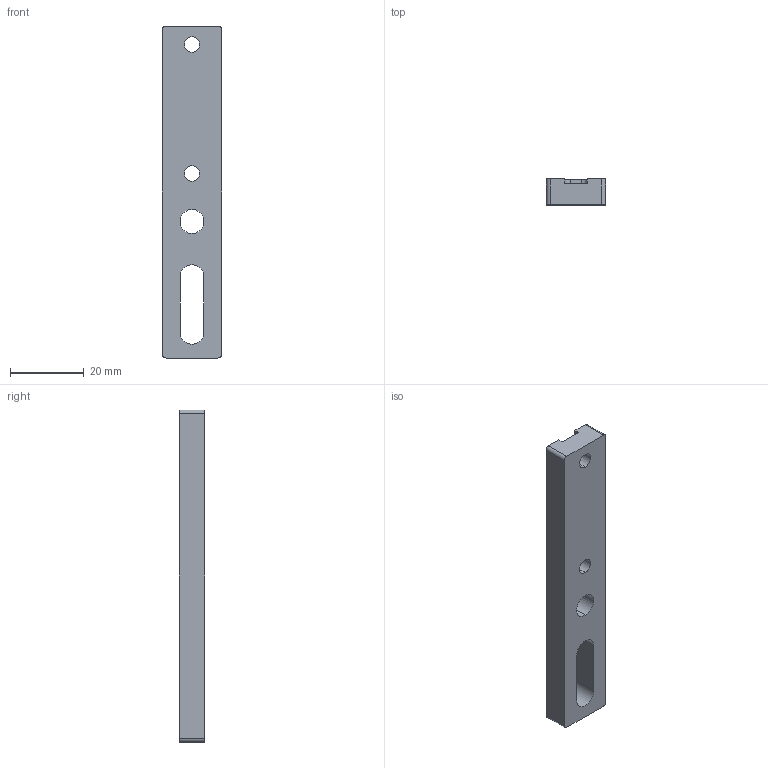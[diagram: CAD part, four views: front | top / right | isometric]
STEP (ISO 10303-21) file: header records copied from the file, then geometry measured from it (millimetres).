
FILE_DESCRIPTION (( 'STEP AP214' ), '1' );
FILE_NAME ('SMBE7-25M6.STEP', '2019-11-19T02:44:05', ( '微软用户' ), ( '微软中国' ), 'SwSTEP 2.0', 'SolidWorks 2016', '' );
FILE_SCHEMA (( 'AUTOMOTIVE_DESIGN' ));
Length unit declared in the file: millimetre
Products named in the file (1): SMBE7-25M6
Bounding box: 16 x 7 x 90 mm (x, y, z)
Volume: 8399.5 mm3; surface area: 4731.3 mm2
Topology: 1 solids, 1 shells, 27 faces, 75 edges, 50 vertices
Faces by surface type: cylinder 15, plane 12
Entity records: 973 total; most frequent: DIRECTION 161, CARTESIAN_POINT 153, ORIENTED_EDGE 150, EDGE_CURVE 75, AXIS2_PLACEMENT_3D 58, VERTEX_POINT 50, LINE 45, VECTOR 45
